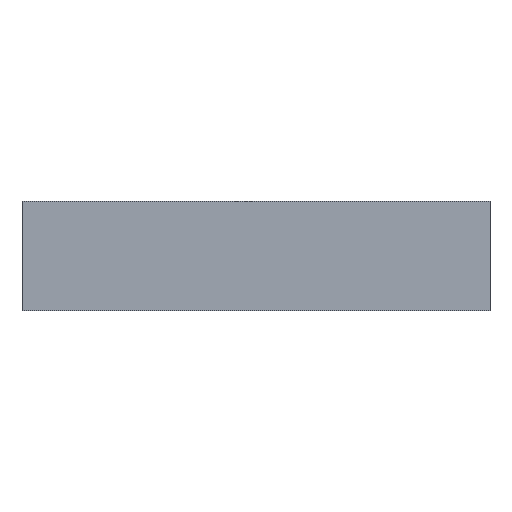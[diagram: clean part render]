
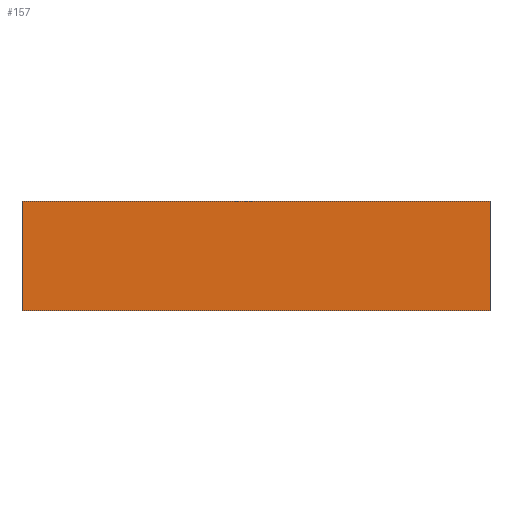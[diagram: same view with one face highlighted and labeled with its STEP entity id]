
A CAD part, top view. The second image highlights one B-rep face of the part: STEP entity #157.
In plain terms, the highlighted planar face has unit normal (0, 0, 1).
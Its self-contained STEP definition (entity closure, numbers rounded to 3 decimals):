
#7 = DIRECTION ( 'NONE',  ( 0., 0., 1. ) ) ;
#11 = EDGE_CURVE ( 'NONE', #192, #106, #135, .T. ) ;
#13 = VECTOR ( 'NONE', #51, 1000. ) ;
#22 = CARTESIAN_POINT ( 'NONE',  ( 852.5, 200., 25. ) ) ;
#24 = ORIENTED_EDGE ( 'NONE', *, *, #195, .T. ) ;
#38 = CARTESIAN_POINT ( 'NONE',  ( -852.5, -200., 25. ) ) ;
#39 = VECTOR ( 'NONE', #202, 1000. ) ;
#40 = CARTESIAN_POINT ( 'NONE',  ( 0., 0., 25. ) ) ;
#42 = DIRECTION ( 'NONE',  ( 1., 0., 0. ) ) ;
#44 = VERTEX_POINT ( 'NONE', #67 ) ;
#51 = DIRECTION ( 'NONE',  ( -1., 0., 0. ) ) ;
#67 = CARTESIAN_POINT ( 'NONE',  ( -852.5, -200., 25. ) ) ;
#69 = DIRECTION ( 'NONE',  ( 0., -1., 0. ) ) ;
#78 = VERTEX_POINT ( 'NONE', #127 ) ;
#86 = FACE_OUTER_BOUND ( 'NONE', #94, .T. ) ;
#94 = EDGE_LOOP ( 'NONE', ( #158, #24, #194, #162 ) ) ;
#95 = EDGE_CURVE ( 'NONE', #78, #192, #132, .T. ) ;
#99 = VECTOR ( 'NONE', #126, 1000. ) ;
#106 = VERTEX_POINT ( 'NONE', #186 ) ;
#116 = CARTESIAN_POINT ( 'NONE',  ( -852.5, 200., 25. ) ) ;
#126 = DIRECTION ( 'NONE',  ( 0., 1., 0. ) ) ;
#127 = CARTESIAN_POINT ( 'NONE',  ( 852.5, -200., 25. ) ) ;
#129 = VECTOR ( 'NONE', #69, 1000. ) ;
#132 = LINE ( 'NONE', #159, #99 ) ;
#135 = LINE ( 'NONE', #151, #13 ) ;
#140 = PLANE ( 'NONE',  #170 ) ;
#147 = EDGE_CURVE ( 'NONE', #106, #44, #148, .T. ) ;
#148 = LINE ( 'NONE', #116, #129 ) ;
#151 = CARTESIAN_POINT ( 'NONE',  ( -852.5, 200., 25. ) ) ;
#157 = ADVANCED_FACE ( 'NONE', ( #86 ), #140, .T. ) ;
#158 = ORIENTED_EDGE ( 'NONE', *, *, #147, .T. ) ;
#159 = CARTESIAN_POINT ( 'NONE',  ( 852.5, 200., 25. ) ) ;
#162 = ORIENTED_EDGE ( 'NONE', *, *, #11, .T. ) ;
#170 = AXIS2_PLACEMENT_3D ( 'NONE', #40, #7, #42 ) ;
#186 = CARTESIAN_POINT ( 'NONE',  ( -852.5, 200., 25. ) ) ;
#192 = VERTEX_POINT ( 'NONE', #22 ) ;
#193 = LINE ( 'NONE', #38, #39 ) ;
#194 = ORIENTED_EDGE ( 'NONE', *, *, #95, .T. ) ;
#195 = EDGE_CURVE ( 'NONE', #44, #78, #193, .T. ) ;
#202 = DIRECTION ( 'NONE',  ( 1., 0., 0. ) ) ;
